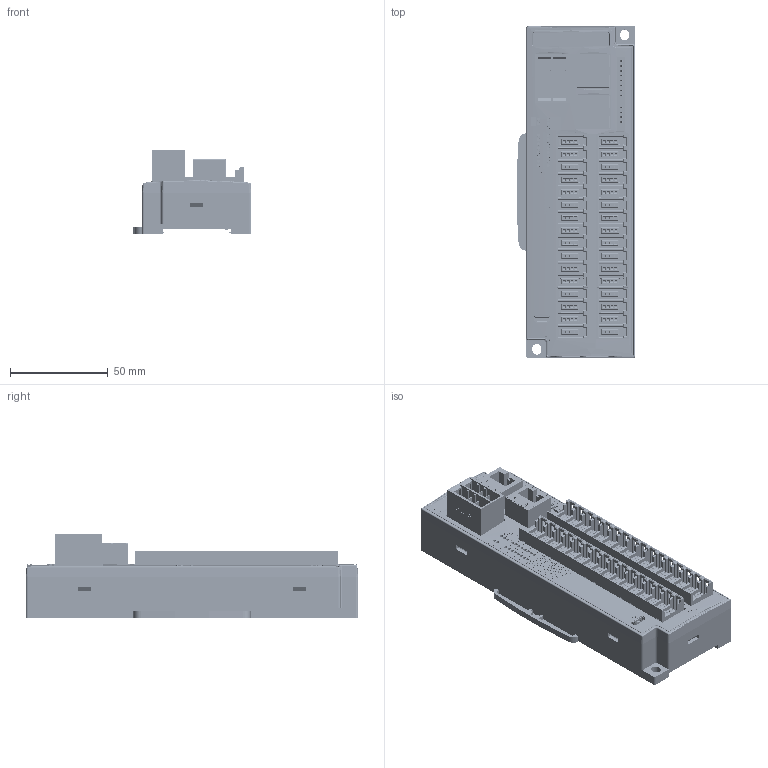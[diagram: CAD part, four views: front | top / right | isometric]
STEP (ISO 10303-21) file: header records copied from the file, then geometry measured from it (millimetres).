
FILE_DESCRIPTION((''),'2;1');
FILE_NAME('CTEPW0','2026-05-11T16:28:06',('gijyu181'),(''),'CREO PARAMETRIC BY PTC INC, 2018050','CREO PARAMETRIC BY PTC INC, 2018050','');
FILE_SCHEMA(('CONFIG_CONTROL_DESIGN','SHAPE_APPEARANCE_LAYERS_GROUPS'));
Products named in the file (1): CTEPW0
Bounding box: 60.87 x 170 x 42.6 mm (x, y, z)
Volume: 275219.1 mm3; surface area: 162555.6 mm2
Topology: 652 solids, 652 shells, 17706 faces, 46979 edges, 31346 vertices
Faces by surface type: plane 12931, extrusion 2546, cylinder 2094, bspline 69, cone 41, torus 21, sphere 4
Entity records: 675921 total; most frequent: CARTESIAN_POINT 154136, ORIENTED_EDGE 93958, DIRECTION 78181, EDGE_CURVE 46979, VECTOR 38647, LINE 36101, VERTEX_POINT 31346, AXIS2_PLACEMENT_3D 19767
